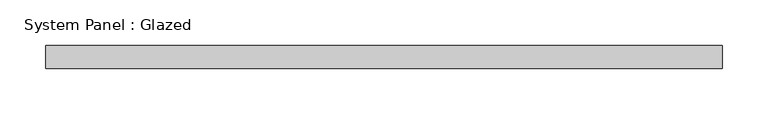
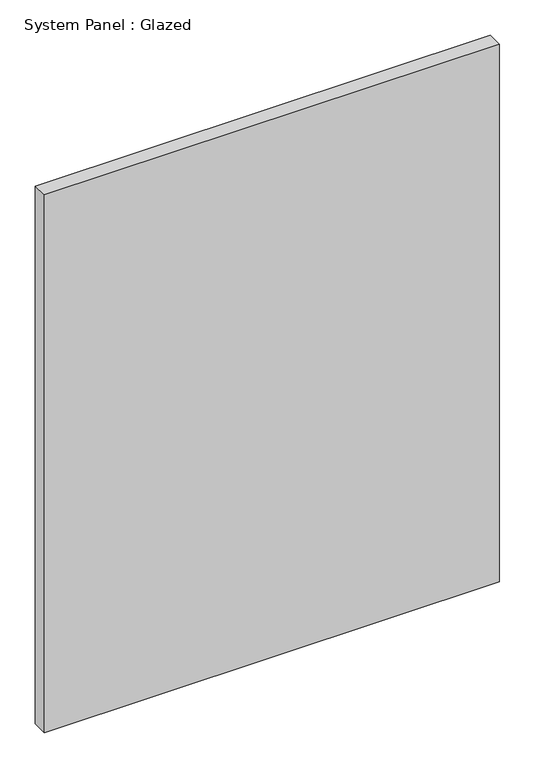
"""IFC4 building model written with IfcOpenShell, lengths in millimetres: plate geometry, System Panel : Glazed."""

from ifc_helpers import new_model, si_unit, origin, origin_with_axes, place, context, project, spatial, polyline, outline, extrude, source, transform, mapped, element, save


def system_panel_glazed_e5dbf5a0(model_context):
    return source(origin(), model_context, "Body", "SweptSolid", [
        extrude(outline(polyline([(370.0, 24.5), (-370.0, 24.5), (-370.0, 49.5), (370.0, 49.5), (370.0, 24.5)])), origin_with_axes(), (0.0, 0.0, 1.0), 925.0),
    ])


if __name__ == "__main__":
    model = new_model("IFC4")
    model_context = context("Model", 3, world=origin())
    ifc_project = project(units=[si_unit("LENGTHUNIT", "METRE", prefix="MILLI")], contexts=[model_context])
    site = spatial("IfcSite", under=ifc_project)
    building = spatial("IfcBuilding", under=site)
    placement = place(None, origin())
    system_panel_glazed_shape = system_panel_glazed_e5dbf5a0(model_context)
    element("IfcPlate", 1, ObjectType="System Panel : Glazed", at=placement, inside=building, context=model_context, shape_type="MappedRepresentation", body=[
        mapped(system_panel_glazed_shape, transform((0.0, 0.0, 0.0), x_axis=(1.0, 0.0, 0.0), y_axis=(0.0, 1.0, 0.0), z_axis=(0.0, 0.0, 1.0))),
    ])
    save(model, "model.ifc")
